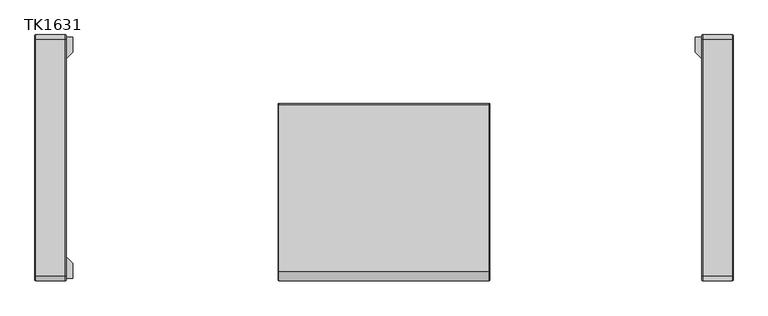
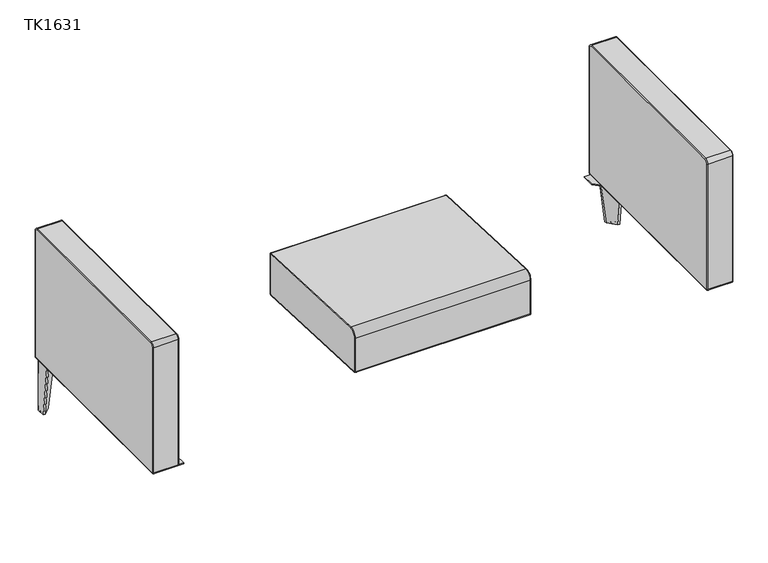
"""IFC4 building model written with IfcOpenShell, lengths in millimetres: furniture geometry, JSI-Teekan-Three_Seat_Lounge : TK1631."""

from ifc_helpers import new_model, si_unit, point, frame, origin, place, context, project, spatial, polyline, circle_curve, ellipse_curve, trimmed, outline, extrude, source, transform, mapped, element, save
from ifc_brep_helpers import plane_surface, cylinder_surface, revolved_surface, spline_surface, advanced_brep


def tk1631_d7be27ab(model_context):
    return source(origin(), model_context, "Body", "SolidModel", [
        extrude(outline(polyline([(-882.65, -342.9), (-984.25, -342.9), (-984.25, -241.3), (-941.3875, -241.3), (-882.65, -300.0375), (-882.65, -342.9)])), frame((0.0, 0.0, 189.4817329), z_axis=(0.0, 0.0, 1.0), x_axis=(1.0, 0.0, 0.0)), (0.0, 0.0, 1.0), 3.175),
        advanced_brep(
        [(974.2513333, 340.133006, 3.1926572), (974.2513333, 340.133006, 4.9994321), (974.2513333, 325.6863843, 4.9994321), (974.2513333, 325.6863843, 3.1926572), (974.2513333, 336.9403488, 0.0), (974.2513333, 328.8790415, 0.0), (974.2513333, 332.9096951, 0.0), (974.2513333, 332.9096951, 4.9994321)],
        [
            (0, 1),
            (1, 2, circle_curve(frame((974.2513333, 332.9096951, 4.9994321), z_axis=(0.0, 0.0, -1.0), x_axis=(0.0, -1.0, 0.0)), 7.2233108)),
            (2, 3),
            (3, 0, circle_curve(frame((974.2513333, 332.9096951, 3.1926572), z_axis=(0.0, 0.0, 1.0), x_axis=(0.0, -1.0, 0.0)), 7.2233108)),
            (2, 1, circle_curve(frame((974.2513333, 332.9096951, 4.9994321), z_axis=(0.0, 0.0, -1.0), x_axis=(0.0, -1.0, 0.0)), 7.2233108)),
            (0, 3, circle_curve(frame((974.2513333, 332.9096951, 3.1926572), z_axis=(0.0, 0.0, 1.0), x_axis=(0.0, -1.0, 0.0)), 7.2233108)),
            (4, 0, circle_curve(frame((974.2513333, 336.9403488, 3.1926572), z_axis=(1.0, 0.0, 0.0), x_axis=(0.0, 1.0, 0.0)), 3.1926572)),
            (3, 5, circle_curve(frame((974.2513333, 328.8790415, 3.1926572), z_axis=(1.0, 0.0, 0.0), x_axis=(0.0, -1.0, 0.0)), 3.1926572)),
            (5, 4, circle_curve(frame((974.2513333, 332.9096951, 0.0), z_axis=(0.0, 0.0, 1.0), x_axis=(0.0, -1.0, 0.0)), 4.0306536)),
            (4, 5, circle_curve(frame((974.2513333, 332.9096951, 0.0), z_axis=(0.0, 0.0, 1.0), x_axis=(0.0, -1.0, 0.0)), 4.0306536)),
            (6, 4),
            (5, 6),
            (1, 7),
            (7, 2),
        ],
        [
            cylinder_surface(frame((974.2513333, 332.9096951, 14.2077797), z_axis=(0.0, 0.0, -1.0), x_axis=(0.0, -1.0, 0.0)), 7.2233108),
            revolved_surface(trimmed(ellipse_curve(frame((974.2513333, 328.8790415, 3.1926572), z_axis=(1.0, 0.0, 0.0), x_axis=(0.0, -1.0, 0.0)), 3.1926572, 3.1926572), [point((974.2513333, 325.6863843, 3.1926572))], [point((974.2513333, 328.8790415, 0.0))], True, "CARTESIAN"), (974.2513333, 332.9096951, 14.2077797), (0.0, 0.0, -1.0)),
            plane_surface(frame((974.2513333, 332.9096951, 0.0), z_axis=(0.0, 0.0, -1.0), x_axis=(0.0, -1.0, 0.0))),
            plane_surface(frame((974.2513333, 332.9096951, 4.9994321), z_axis=(0.0, 0.0, 1.0), x_axis=(0.0, -1.0, 0.0))),
        ],
        [
            (0, [[1, 2, 3, 4]]),
            (0, [[-3, 5, -1, 6]]),
            (1, [[7, -4, 8, 9]]),
            (1, [[-8, -6, -7, 10]]),
            (2, [[11, -9, 12]]),
            (2, [[-12, -10, -11]]),
            (3, [[13, 14, -2]]),
            (3, [[-14, -13, -5]]),
        ],
    ),
        advanced_brep(
        [(930.275, 336.5496631, 189.4817329), (977.9, 288.9246631, 189.4817329), (984.25, 288.9246631, 189.4817329), (984.25, 339.725, 189.4817329), (981.075, 342.9, 189.4817329), (930.275, 342.9, 189.4817329), (952.5, 336.5496631, 4.9994321), (952.5, 342.9, 4.9994321), (981.0469923, 342.9, 4.9994321), (984.25, 339.6969923, 4.9994321), (984.25, 311.1496631, 4.9994321), (977.9, 311.1496631, 4.9994321)],
        [
            (0, 1),
            (1, 2),
            (2, 3),
            (3, 4, circle_curve(frame((981.075, 339.725, 189.4817329), z_axis=(0.0, 0.0, 1.0), x_axis=(-1.0, 0.0, 0.0)), 3.175)),
            (4, 5),
            (5, 0),
            (6, 7),
            (7, 8),
            (8, 9, circle_curve(frame((981.0469923, 339.6969923, 4.9994321), z_axis=(0.0, 0.0, -1.0), x_axis=(-1.0, 0.0, 0.0)), 3.2030077)),
            (9, 10),
            (10, 11),
            (11, 6),
            (6, 0),
            (5, 7),
            (4, 8),
            (3, 9),
            (2, 10),
            (1, 11),
        ],
        [
            plane_surface(frame((964.6708333, 323.3206649, 189.4817329), z_axis=(0.0, 0.0, 1.0), x_axis=(-1.0, 0.0, 0.0))),
            plane_surface(frame((972.0744987, 330.7243303, 4.9994321), z_axis=(0.0, 0.0, -1.0), x_axis=(-1.0, 0.0, 0.0))),
            plane_surface(frame((952.5, 339.7248316, 4.9994321), z_axis=(-0.9928212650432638, 0.0, -0.11960742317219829), x_axis=(0.0, 1.0, 0.0))),
            plane_surface(frame((966.7734961, 342.9, 4.9994321), z_axis=(0.0, 1.0, 0.0), x_axis=(1.0, 0.0, 0.0))),
            spline_surface(1, 2, [[(981.0469923, 342.9, 4.9994321), (984.25, 342.90000000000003, 4.9994321), (984.25, 339.6969923, 4.9994321)], [(981.075, 342.9, 189.4817329), (984.25, 342.90000000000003, 189.4817329), (984.25, 339.725, 189.4817329)]], [2, 2], [3, 3], [0.0, 1.0], [0.0, 1.0], weights=[[1.0, 0.7071067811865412, 1.0], [1.0, 0.7071067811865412, 1.0]]),
            plane_surface(frame((984.25, 325.4233277, 4.9994321), z_axis=(1.0, 0.0, 0.0), x_axis=(0.0, -1.0, 0.0))),
            plane_surface(frame((981.075, 311.1496631, 4.9994321), z_axis=(0.0, -0.992821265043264, -0.11960742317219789), x_axis=(-1.0, 0.0, 0.0))),
            plane_surface(frame((965.2, 323.8496631, 4.9994321), z_axis=(-0.7045550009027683, -0.7045550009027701, -0.08487933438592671), x_axis=(-0.7071067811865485, 0.7071067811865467, 0.0))),
        ],
        [
            (0, [[1, 2, 3, 4, 5, 6]]),
            (1, [[7, 8, 9, 10, 11, 12]]),
            (2, [[13, -6, 14, -7]]),
            (3, [[-14, -5, 15, -8]]),
            (4, [[-15, -4, 16, -9]]),
            (5, [[-16, -3, 17, -10]]),
            (6, [[-17, -2, 18, -11]]),
            (7, [[-18, -1, -13, -12]]),
        ],
    ),
        extrude(outline(polyline([(882.65, 342.9), (984.25, 342.9), (984.25, 241.3), (941.3875, 241.3), (882.65, 300.0375), (882.65, 342.9)])), frame((0.0, 0.0, 189.4817329), z_axis=(0.0, 0.0, 1.0), x_axis=(1.0, 0.0, 0.0)), (0.0, 0.0, 1.0), 3.175),
        advanced_brep(
        [(-974.2513333, 340.133006, 3.1926572), (-974.2513333, 325.6863843, 3.1926572), (-974.2513333, 325.6863843, 4.9994321), (-974.2513333, 340.133006, 4.9994321), (-974.2513333, 336.9403488, 0.0), (-974.2513333, 328.8790415, 0.0), (-974.2513333, 332.9096951, 0.0), (-974.2513333, 332.9096951, 4.9994321)],
        [
            (0, 1, circle_curve(frame((-974.2513333, 332.9096951, 3.1926572), z_axis=(0.0, 0.0, 1.0), x_axis=(0.0, -1.0, 0.0)), 7.2233108)),
            (1, 2),
            (2, 3, circle_curve(frame((-974.2513333, 332.9096951, 4.9994321), z_axis=(0.0, 0.0, -1.0), x_axis=(0.0, -1.0, 0.0)), 7.2233108)),
            (3, 0),
            (1, 0, circle_curve(frame((-974.2513333, 332.9096951, 3.1926572), z_axis=(0.0, 0.0, 1.0), x_axis=(0.0, -1.0, 0.0)), 7.2233108)),
            (3, 2, circle_curve(frame((-974.2513333, 332.9096951, 4.9994321), z_axis=(0.0, 0.0, -1.0), x_axis=(0.0, -1.0, 0.0)), 7.2233108)),
            (4, 5, circle_curve(frame((-974.2513333, 332.9096951, 0.0), z_axis=(0.0, 0.0, 1.0), x_axis=(0.0, -1.0, 0.0)), 4.0306536)),
            (5, 1, circle_curve(frame((-974.2513333, 328.8790415, 3.1926572), z_axis=(-1.0, 0.0, 0.0), x_axis=(0.0, -1.0, 0.0)), 3.1926572)),
            (0, 4, circle_curve(frame((-974.2513333, 336.9403488, 3.1926572), z_axis=(-1.0, 0.0, 0.0), x_axis=(0.0, 1.0, 0.0)), 3.1926572)),
            (5, 4, circle_curve(frame((-974.2513333, 332.9096951, 0.0), z_axis=(0.0, 0.0, 1.0), x_axis=(0.0, -1.0, 0.0)), 4.0306536)),
            (6, 5),
            (4, 6),
            (2, 7),
            (7, 3),
        ],
        [
            cylinder_surface(frame((-974.2513333, 332.9096951, 14.2077797), z_axis=(0.0, 0.0, -1.0), x_axis=(0.0, -1.0, 0.0)), 7.2233108),
            revolved_surface(trimmed(ellipse_curve(frame((-974.2513333, 328.8790415, 3.1926572), z_axis=(1.0, 0.0, 0.0), x_axis=(0.0, -1.0, 0.0)), 3.1926572, 3.1926572), [point((-974.2513333, 325.6863843, 3.1926572))], [point((-974.2513333, 328.8790415, 0.0))], True, "CARTESIAN"), (-974.2513333, 332.9096951, 14.2077797), (0.0, 0.0, -1.0)),
            plane_surface(frame((-974.2513333, 332.9096951, 0.0), z_axis=(0.0, 0.0, -1.0), x_axis=(0.0, -1.0, 0.0))),
            plane_surface(frame((-974.2513333, 332.9096951, 4.9994321), z_axis=(0.0, 0.0, 1.0), x_axis=(0.0, -1.0, 0.0))),
        ],
        [
            (0, [[1, 2, 3, 4]]),
            (0, [[5, -4, 6, -2]]),
            (1, [[7, 8, -1, 9]]),
            (1, [[10, -9, -5, -8]]),
            (2, [[11, -7, 12]]),
            (2, [[-12, -10, -11]]),
            (3, [[-3, 13, 14]]),
            (3, [[-6, -14, -13]]),
        ],
    ),
        advanced_brep(
        [(-930.275, 336.5496631, 189.4817329), (-930.275, 342.9, 189.4817329), (-981.075, 342.9, 189.4817329), (-984.25, 339.725, 189.4817329), (-984.25, 288.9246631, 189.4817329), (-977.9, 288.9246631, 189.4817329), (-952.5, 336.5496631, 4.9994321), (-977.9, 311.1496631, 4.9994321), (-984.25, 311.1496631, 4.9994321), (-984.25, 339.6969923, 4.9994321), (-981.0469923, 342.9, 4.9994321), (-952.5, 342.9, 4.9994321)],
        [
            (0, 1),
            (1, 2),
            (2, 3, circle_curve(frame((-981.075, 339.725, 189.4817329), z_axis=(0.0, 0.0, 1.0), x_axis=(1.0, 0.0, 0.0)), 3.175)),
            (3, 4),
            (4, 5),
            (5, 0),
            (6, 7),
            (7, 8),
            (8, 9),
            (9, 10, circle_curve(frame((-981.0469923, 339.6969923, 4.9994321), z_axis=(0.0, 0.0, -1.0), x_axis=(1.0, 0.0, 0.0)), 3.2030077)),
            (10, 11),
            (11, 6),
            (11, 1),
            (0, 6),
            (10, 2),
            (9, 3),
            (8, 4),
            (7, 5),
        ],
        [
            plane_surface(frame((-964.6708333, 323.3206649, 189.4817329), z_axis=(0.0, 0.0, 1.0), x_axis=(1.0, 0.0, 0.0))),
            plane_surface(frame((-972.0744987, 330.7243303, 4.9994321), z_axis=(0.0, 0.0, -1.0), x_axis=(1.0, 0.0, 0.0))),
            plane_surface(frame((-952.5, 339.7248316, 4.9994321), z_axis=(0.9928212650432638, 0.0, -0.11960742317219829), x_axis=(0.0, 1.0, 0.0))),
            plane_surface(frame((-966.7734961, 342.9, 4.9994321), z_axis=(0.0, 1.0, 0.0), x_axis=(-1.0, 0.0, 0.0))),
            spline_surface(2, 1, [[(-981.0469923, 342.9, 4.9994321), (-981.075, 342.9, 189.4817329)], [(-984.25, 342.90000000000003, 4.9994321), (-984.25, 342.90000000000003, 189.4817329)], [(-984.25, 339.6969923, 4.9994321), (-984.25, 339.725, 189.4817329)]], [3, 3], [2, 2], [0.0, 1.0], [0.0, 1.0], weights=[[1.0, 1.0], [0.7071067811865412, 0.7071067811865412], [1.0, 1.0]]),
            plane_surface(frame((-984.25, 325.4233277, 4.9994321), z_axis=(-1.0, 0.0, 0.0), x_axis=(0.0, -1.0, 0.0))),
            plane_surface(frame((-981.075, 311.1496631, 4.9994321), z_axis=(0.0, -0.992821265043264, -0.11960742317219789), x_axis=(1.0, 0.0, 0.0))),
            plane_surface(frame((-965.2, 323.8496631, 4.9994321), z_axis=(0.7045550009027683, -0.7045550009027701, -0.08487933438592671), x_axis=(0.7071067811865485, 0.7071067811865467, 0.0))),
        ],
        [
            (0, [[1, 2, 3, 4, 5, 6]]),
            (1, [[7, 8, 9, 10, 11, 12]]),
            (2, [[-12, 13, -1, 14]]),
            (3, [[-11, 15, -2, -13]]),
            (4, [[-10, 16, -3, -15]]),
            (5, [[-9, 17, -4, -16]]),
            (6, [[-8, 18, -5, -17]]),
            (7, [[-7, -14, -6, -18]]),
        ],
    ),
        extrude(outline(polyline([(-882.65, 342.9), (-882.65, 300.0375), (-941.3875, 241.3), (-984.25, 241.3), (-984.25, 342.9), (-882.65, 342.9)])), frame((0.0, 0.0, 189.4817329), z_axis=(0.0, 0.0, 1.0), x_axis=(1.0, 0.0, 0.0)), (0.0, 0.0, 1.0), 3.175),
        advanced_brep(
        [(-904.08125, -349.2253956, 649.9721851), (-901.7, -346.8441456, 649.9721851), (-901.7, -336.5253956, 660.2909351), (-904.08125, -336.5253956, 662.6721851), (-988.21875, -336.5253956, 662.6721851), (-988.21875, -349.2253956, 649.9721851), (-990.6, -336.5253956, 660.2909351), (-990.6, -346.8441456, 649.9721851), (-904.08125, -349.2253956, 197.5346851), (-901.7, -346.8441456, 197.5346851), (-988.21875, -349.2253956, 197.5346851), (-990.6, -346.8441456, 197.5346851), (-904.08125, -344.4628956, 192.7721851), (-901.7, -344.4628956, 195.1534351), (-988.21875, -344.4628956, 192.7721851), (-990.6, -344.4628956, 195.1534351), (-904.08125, 344.5121044, 192.7721851), (-901.7, 344.5121044, 195.1534351), (-988.21875, 344.5121044, 192.7721851), (-990.6, 344.5121044, 195.1534351), (-904.08125, 349.2746044, 197.5346851), (-901.7, 346.8933544, 197.5346851), (-988.21875, 349.2746044, 197.5346851), (-990.6, 346.8933544, 197.5346851), (-904.08125, 349.2746044, 649.9721851), (-901.7, 346.8933544, 649.9721851), (-988.21875, 349.2746044, 649.9721851), (-990.6, 346.8933544, 649.9721851), (-904.08125, 336.5746044, 662.6721851), (-901.7, 336.5746044, 660.2909351), (-988.21875, 336.5746044, 662.6721851), (-990.6, 336.5746044, 660.2909351)],
        [
            (0, 1, circle_curve(frame((-904.08125, -346.8441456, 649.9721851), z_axis=(0.0, 0.0, 1.0), x_axis=(-1.0, 0.0, 0.0)), 2.38125)),
            (1, 2, circle_curve(frame((-901.7, -336.5253956, 649.9721851), z_axis=(-1.0, 0.0, 0.0), x_axis=(0.0, 0.0, 1.0)), 10.31875)),
            (2, 3, circle_curve(frame((-904.08125, -336.5253956, 660.2909351), z_axis=(0.0, -1.0, 0.0), x_axis=(-1.0, 0.0, 0.0)), 2.38125)),
            (3, 0, circle_curve(frame((-904.08125, -336.5253956, 649.9721851), z_axis=(1.0, 0.0, 0.0), x_axis=(0.0, 0.0, 1.0)), 12.7)),
            (3, 4),
            (4, 5, circle_curve(frame((-988.21875, -336.5253956, 649.9721851), z_axis=(1.0, 0.0, 0.0), x_axis=(0.0, 0.0, 1.0)), 12.7)),
            (5, 0),
            (4, 6, circle_curve(frame((-988.21875, -336.5253956, 660.2909351), z_axis=(0.0, -1.0, 0.0), x_axis=(-1.0, 0.0, 0.0)), 2.38125)),
            (6, 7, circle_curve(frame((-990.6, -336.5253956, 649.9721851), z_axis=(1.0, 0.0, 0.0), x_axis=(0.0, 0.0, 1.0)), 10.31875)),
            (7, 5, circle_curve(frame((-988.21875, -346.8441456, 649.9721851), z_axis=(0.0, 0.0, 1.0), x_axis=(-1.0, 0.0, 0.0)), 2.38125)),
            (0, 8),
            (8, 9, circle_curve(frame((-904.08125, -346.8441456, 197.5346851), z_axis=(0.0, 0.0, 1.0), x_axis=(-1.0, 0.0, 0.0)), 2.38125)),
            (9, 1),
            (5, 10),
            (10, 8),
            (7, 11),
            (11, 10, circle_curve(frame((-988.21875, -346.8441456, 197.5346851), z_axis=(0.0, 0.0, 1.0), x_axis=(-1.0, 0.0, 0.0)), 2.38125)),
            (8, 12, circle_curve(frame((-904.08125, -344.4628956, 197.5346851), z_axis=(1.0, 0.0, 0.0), x_axis=(0.0, -1.0, 0.0)), 4.7625)),
            (12, 13, circle_curve(frame((-904.08125, -344.4628956, 195.1534351), z_axis=(0.0, -1.0, 0.0), x_axis=(-1.0, 0.0, 0.0)), 2.38125)),
            (13, 9, circle_curve(frame((-901.7, -344.4628956, 197.5346851), z_axis=(-1.0, 0.0, 0.0), x_axis=(0.0, -1.0, 0.0)), 2.38125)),
            (10, 14, circle_curve(frame((-988.21875, -344.4628956, 197.5346851), z_axis=(1.0, 0.0, 0.0), x_axis=(0.0, -1.0, 0.0)), 4.7625)),
            (14, 12),
            (11, 15, circle_curve(frame((-990.6, -344.4628956, 197.5346851), z_axis=(1.0, 0.0, 0.0), x_axis=(0.0, -1.0, 0.0)), 2.38125)),
            (15, 14, circle_curve(frame((-988.21875, -344.4628956, 195.1534351), z_axis=(0.0, -1.0, 0.0), x_axis=(-1.0, 0.0, 0.0)), 2.38125)),
            (12, 16),
            (16, 17, circle_curve(frame((-904.08125, 344.5121044, 195.1534351), z_axis=(0.0, -1.0, 0.0), x_axis=(-1.0, 0.0, 0.0)), 2.38125)),
            (17, 13),
            (14, 18),
            (18, 16),
            (15, 19),
            (19, 18, circle_curve(frame((-988.21875, 344.5121044, 195.1534351), z_axis=(0.0, -1.0, 0.0), x_axis=(-1.0, 0.0, 0.0)), 2.38125)),
            (16, 20, circle_curve(frame((-904.08125, 344.5121044, 197.5346851), z_axis=(1.0, 0.0, 0.0), x_axis=(0.0, 0.0, -1.0)), 4.7625)),
            (20, 21, circle_curve(frame((-904.08125, 346.8933544, 197.5346851), z_axis=(0.0, 0.0, -1.0), x_axis=(-1.0, 0.0, 0.0)), 2.38125)),
            (21, 17, circle_curve(frame((-901.7, 344.5121044, 197.5346851), z_axis=(-1.0, 0.0, 0.0), x_axis=(0.0, 0.0, -1.0)), 2.38125)),
            (18, 22, circle_curve(frame((-988.21875, 344.5121044, 197.5346851), z_axis=(1.0, 0.0, 0.0), x_axis=(0.0, 0.0, -1.0)), 4.7625)),
            (22, 20),
            (19, 23, circle_curve(frame((-990.6, 344.5121044, 197.5346851), z_axis=(1.0, 0.0, 0.0), x_axis=(0.0, 0.0, -1.0)), 2.38125)),
            (23, 22, circle_curve(frame((-988.21875, 346.8933544, 197.5346851), z_axis=(0.0, 0.0, -1.0), x_axis=(-1.0, 0.0, 0.0)), 2.38125)),
            (20, 24),
            (24, 25, circle_curve(frame((-904.08125, 346.8933544, 649.9721851), z_axis=(0.0, 0.0, -1.0), x_axis=(-1.0, 0.0, 0.0)), 2.38125)),
            (25, 21),
            (22, 26),
            (26, 24),
            (23, 27),
            (27, 26, circle_curve(frame((-988.21875, 346.8933544, 649.9721851), z_axis=(0.0, 0.0, -1.0), x_axis=(-1.0, 0.0, 0.0)), 2.38125)),
            (24, 28, circle_curve(frame((-904.08125, 336.5746044, 649.9721851), z_axis=(1.0, 0.0, 0.0), x_axis=(0.0, 1.0, 0.0)), 12.7)),
            (28, 29, circle_curve(frame((-904.08125, 336.5746044, 660.2909351), z_axis=(0.0, 1.0, 0.0), x_axis=(-1.0, 0.0, 0.0)), 2.38125)),
            (29, 25, circle_curve(frame((-901.7, 336.5746044, 649.9721851), z_axis=(-1.0, 0.0, 0.0), x_axis=(0.0, 1.0, 0.0)), 10.31875)),
            (26, 30, circle_curve(frame((-988.21875, 336.5746044, 649.9721851), z_axis=(1.0, 0.0, 0.0), x_axis=(0.0, 1.0, 0.0)), 12.7)),
            (30, 28),
            (27, 31, circle_curve(frame((-990.6, 336.5746044, 649.9721851), z_axis=(1.0, 0.0, 0.0), x_axis=(0.0, 1.0, 0.0)), 10.31875)),
            (31, 30, circle_curve(frame((-988.21875, 336.5746044, 660.2909351), z_axis=(0.0, 1.0, 0.0), x_axis=(-1.0, 0.0, 0.0)), 2.38125)),
            (29, 2),
            (28, 3),
            (30, 4),
            (31, 6),
        ],
        [
            revolved_surface(trimmed(ellipse_curve(frame((-904.08125, -336.5253956, 660.2909351), z_axis=(0.0, -1.0, 0.0), x_axis=(-1.0, 0.0, 0.0)), 2.38125, 2.38125), [point((-901.7, -336.5253956, 660.2909351))], [point((-904.08125, -336.5253956, 662.6721851))], True, "CARTESIAN"), (-990.6, -336.5253956, 649.9721851), (-1.0, 0.0, 0.0)),
            cylinder_surface(frame((-990.6, -336.5253956, 649.9721851), z_axis=(-1.0, 0.0, 0.0), x_axis=(0.0, 0.0, 1.0)), 12.7),
            revolved_surface(trimmed(ellipse_curve(frame((-988.21875, -336.5253956, 660.2909351), z_axis=(0.0, -1.0, 0.0), x_axis=(-1.0, 0.0, 0.0)), 2.38125, 2.38125), [point((-988.21875, -336.5253956, 662.6721851))], [point((-990.6, -336.5253956, 660.2909351))], True, "CARTESIAN"), (-990.6, -336.5253956, 649.9721851), (-1.0, 0.0, 0.0)),
            cylinder_surface(frame((-904.08125, -346.8441456, 649.9721851), z_axis=(0.0, 0.0, 1.0), x_axis=(-1.0, 0.0, 0.0)), 2.38125),
            plane_surface(frame((-904.08125, -349.2253956, 649.9721851), z_axis=(0.0, -1.0, 0.0), x_axis=(0.0, 0.0, -1.0))),
            cylinder_surface(frame((-988.21875, -346.8441456, 649.9721851), z_axis=(0.0, 0.0, 1.0), x_axis=(-1.0, 0.0, 0.0)), 2.38125),
            revolved_surface(trimmed(ellipse_curve(frame((-904.08125, -346.8441456, 197.5346851), z_axis=(0.0, 0.0, -1.0), x_axis=(-1.0, 0.0, 0.0)), 2.38125, 2.38125), [point((-901.7, -346.8441456, 197.5346851))], [point((-904.08125, -349.2253956, 197.5346851))], True, "CARTESIAN"), (-990.6, -344.4628956, 197.5346851), (-1.0, 0.0, 0.0)),
            cylinder_surface(frame((-990.6, -344.4628956, 197.5346851), z_axis=(-1.0, 0.0, 0.0), x_axis=(0.0, -1.0, 0.0)), 4.7625),
            revolved_surface(trimmed(ellipse_curve(frame((-988.21875, -346.8441456, 197.5346851), z_axis=(0.0, 0.0, -1.0), x_axis=(-1.0, 0.0, 0.0)), 2.38125, 2.38125), [point((-988.21875, -349.2253956, 197.5346851))], [point((-990.6, -346.8441456, 197.5346851))], True, "CARTESIAN"), (-990.6, -344.4628956, 197.5346851), (-1.0, 0.0, 0.0)),
            cylinder_surface(frame((-904.08125, -344.4628956, 195.1534351), z_axis=(0.0, -1.0, 0.0), x_axis=(-1.0, 0.0, 0.0)), 2.38125),
            plane_surface(frame((-904.08125, -344.4628956, 192.7721851), z_axis=(0.0, 0.0, -1.0), x_axis=(0.0, 1.0, 0.0))),
            cylinder_surface(frame((-988.21875, -344.4628956, 195.1534351), z_axis=(0.0, -1.0, 0.0), x_axis=(-1.0, 0.0, 0.0)), 2.38125),
            revolved_surface(trimmed(ellipse_curve(frame((-904.08125, 344.5121044, 195.1534351), z_axis=(0.0, 1.0, 0.0), x_axis=(-1.0, 0.0, 0.0)), 2.38125, 2.38125), [point((-901.7, 344.5121044, 195.1534351))], [point((-904.08125, 344.5121044, 192.7721851))], True, "CARTESIAN"), (-990.6, 344.5121044, 197.5346851), (-1.0, 0.0, 0.0)),
            cylinder_surface(frame((-990.6, 344.5121044, 197.5346851), z_axis=(-1.0, 0.0, 0.0), x_axis=(0.0, 0.0, -1.0)), 4.7625),
            revolved_surface(trimmed(ellipse_curve(frame((-988.21875, 344.5121044, 195.1534351), z_axis=(0.0, 1.0, 0.0), x_axis=(-1.0, 0.0, 0.0)), 2.38125, 2.38125), [point((-988.21875, 344.5121044, 192.7721851))], [point((-990.6, 344.5121044, 195.1534351))], True, "CARTESIAN"), (-990.6, 344.5121044, 197.5346851), (-1.0, 0.0, 0.0)),
            cylinder_surface(frame((-904.08125, 346.8933544, 197.5346851), z_axis=(0.0, 0.0, -1.0), x_axis=(-1.0, 0.0, 0.0)), 2.38125),
            plane_surface(frame((-904.08125, 349.2746044, 197.5346851), z_axis=(0.0, 1.0, 0.0), x_axis=(0.0, 0.0, 1.0))),
            cylinder_surface(frame((-988.21875, 346.8933544, 197.5346851), z_axis=(0.0, 0.0, -1.0), x_axis=(-1.0, 0.0, 0.0)), 2.38125),
            revolved_surface(trimmed(ellipse_curve(frame((-904.08125, 346.8933544, 649.9721851), z_axis=(0.0, 0.0, 1.0), x_axis=(-1.0, 0.0, 0.0)), 2.38125, 2.38125), [point((-901.7, 346.8933544, 649.9721851))], [point((-904.08125, 349.2746044, 649.9721851))], True, "CARTESIAN"), (-990.6, 336.5746044, 649.9721851), (-1.0, 0.0, 0.0)),
            cylinder_surface(frame((-990.6, 336.5746044, 649.9721851), z_axis=(-1.0, 0.0, 0.0), x_axis=(0.0, 1.0, 0.0)), 12.7),
            revolved_surface(trimmed(ellipse_curve(frame((-988.21875, 346.8933544, 649.9721851), z_axis=(0.0, 0.0, 1.0), x_axis=(-1.0, 0.0, 0.0)), 2.38125, 2.38125), [point((-988.21875, 349.2746044, 649.9721851))], [point((-990.6, 346.8933544, 649.9721851))], True, "CARTESIAN"), (-990.6, 336.5746044, 649.9721851), (-1.0, 0.0, 0.0)),
            plane_surface(frame((-901.7, 336.5746044, 658.7034351), z_axis=(1.0, 0.0, 0.0), x_axis=(0.0, -1.0, 0.0))),
            cylinder_surface(frame((-904.08125, 336.5746044, 660.2909351), z_axis=(0.0, 1.0, 0.0), x_axis=(-1.0, 0.0, 0.0)), 2.38125),
            plane_surface(frame((-904.08125, 336.5746044, 662.6721851), z_axis=(0.0, 0.0, 1.0), x_axis=(0.0, -1.0, 0.0))),
            cylinder_surface(frame((-988.21875, 336.5746044, 660.2909351), z_axis=(0.0, 1.0, 0.0), x_axis=(-1.0, 0.0, 0.0)), 2.38125),
            plane_surface(frame((-990.6, 336.5746044, 660.2909351), z_axis=(-1.0, 0.0, 0.0), x_axis=(0.0, -1.0, 0.0))),
        ],
        [
            (0, [[1, 2, 3, 4]]),
            (1, [[5, 6, 7, -4]]),
            (2, [[8, 9, 10, -6]]),
            (3, [[11, 12, 13, -1]]),
            (4, [[14, 15, -11, -7]]),
            (5, [[16, 17, -14, -10]]),
            (6, [[18, 19, 20, -12]]),
            (7, [[21, 22, -18, -15]]),
            (8, [[23, 24, -21, -17]]),
            (9, [[25, 26, 27, -19]]),
            (10, [[28, 29, -25, -22]]),
            (11, [[30, 31, -28, -24]]),
            (12, [[32, 33, 34, -26]]),
            (13, [[35, 36, -32, -29]]),
            (14, [[37, 38, -35, -31]]),
            (15, [[39, 40, 41, -33]]),
            (16, [[42, 43, -39, -36]]),
            (17, [[44, 45, -42, -38]]),
            (18, [[46, 47, 48, -40]]),
            (19, [[49, 50, -46, -43]]),
            (20, [[51, 52, -49, -45]]),
            (21, [[-13, -20, -27, -34, -41, -48, 53, -2]]),
            (22, [[-53, -47, 54, -3]]),
            (23, [[-54, -50, 55, -5]]),
            (24, [[-55, -52, 56, -8]]),
            (25, [[-56, -51, -44, -37, -30, -23, -16, -9]]),
        ],
    ),
        advanced_brep(
        [(904.08125, -349.2253956, 649.9721851), (904.08125, -336.5253956, 662.6721851), (901.7, -336.5253956, 660.2909351), (901.7, -346.8441456, 649.9721851), (988.21875, -349.2253956, 649.9721851), (988.21875, -336.5253956, 662.6721851), (990.6, -346.8441456, 649.9721851), (990.6, -336.5253956, 660.2909351), (901.7, -346.8441456, 197.5346851), (904.08125, -349.2253956, 197.5346851), (988.21875, -349.2253956, 197.5346851), (990.6, -346.8441456, 197.5346851), (901.7, -344.4628956, 195.1534351), (904.08125, -344.4628956, 192.7721851), (988.21875, -344.4628956, 192.7721851), (990.6, -344.4628956, 195.1534351), (901.7, 344.5121044, 195.1534351), (904.08125, 344.5121044, 192.7721851), (988.21875, 344.5121044, 192.7721851), (990.6, 344.5121044, 195.1534351), (901.7, 346.8933544, 197.5346851), (904.08125, 349.2746044, 197.5346851), (988.21875, 349.2746044, 197.5346851), (990.6, 346.8933544, 197.5346851), (901.7, 346.8933544, 649.9721851), (904.08125, 349.2746044, 649.9721851), (988.21875, 349.2746044, 649.9721851), (990.6, 346.8933544, 649.9721851), (901.7, 336.5746044, 660.2909351), (904.08125, 336.5746044, 662.6721851), (988.21875, 336.5746044, 662.6721851), (990.6, 336.5746044, 660.2909351)],
        [
            (0, 1, circle_curve(frame((904.08125, -336.5253956, 649.9721851), z_axis=(-1.0, 0.0, 0.0), x_axis=(0.0, 0.0, 1.0)), 12.7)),
            (1, 2, circle_curve(frame((904.08125, -336.5253956, 660.2909351), z_axis=(0.0, -1.0, 0.0), x_axis=(1.0, 0.0, 0.0)), 2.38125)),
            (2, 3, circle_curve(frame((901.7, -336.5253956, 649.9721851), z_axis=(1.0, 0.0, 0.0), x_axis=(0.0, 0.0, 1.0)), 10.31875)),
            (3, 0, circle_curve(frame((904.08125, -346.8441456, 649.9721851), z_axis=(0.0, 0.0, 1.0), x_axis=(1.0, 0.0, 0.0)), 2.38125)),
            (0, 4),
            (4, 5, circle_curve(frame((988.21875, -336.5253956, 649.9721851), z_axis=(-1.0, 0.0, 0.0), x_axis=(0.0, 0.0, 1.0)), 12.7)),
            (5, 1),
            (4, 6, circle_curve(frame((988.21875, -346.8441456, 649.9721851), z_axis=(0.0, 0.0, 1.0), x_axis=(1.0, 0.0, 0.0)), 2.38125)),
            (6, 7, circle_curve(frame((990.6, -336.5253956, 649.9721851), z_axis=(-1.0, 0.0, 0.0), x_axis=(0.0, 0.0, 1.0)), 10.31875)),
            (7, 5, circle_curve(frame((988.21875, -336.5253956, 660.2909351), z_axis=(0.0, -1.0, 0.0), x_axis=(1.0, 0.0, 0.0)), 2.38125)),
            (3, 8),
            (8, 9, circle_curve(frame((904.08125, -346.8441456, 197.5346851), z_axis=(0.0, 0.0, 1.0), x_axis=(1.0, 0.0, 0.0)), 2.38125)),
            (9, 0),
            (9, 10),
            (10, 4),
            (10, 11, circle_curve(frame((988.21875, -346.8441456, 197.5346851), z_axis=(0.0, 0.0, 1.0), x_axis=(1.0, 0.0, 0.0)), 2.38125)),
            (11, 6),
            (8, 12, circle_curve(frame((901.7, -344.4628956, 197.5346851), z_axis=(1.0, 0.0, 0.0), x_axis=(0.0, -1.0, 0.0)), 2.38125)),
            (12, 13, circle_curve(frame((904.08125, -344.4628956, 195.1534351), z_axis=(0.0, -1.0, 0.0), x_axis=(1.0, 0.0, 0.0)), 2.38125)),
            (13, 9, circle_curve(frame((904.08125, -344.4628956, 197.5346851), z_axis=(-1.0, 0.0, 0.0), x_axis=(0.0, -1.0, 0.0)), 4.7625)),
            (13, 14),
            (14, 10, circle_curve(frame((988.21875, -344.4628956, 197.5346851), z_axis=(-1.0, 0.0, 0.0), x_axis=(0.0, -1.0, 0.0)), 4.7625)),
            (14, 15, circle_curve(frame((988.21875, -344.4628956, 195.1534351), z_axis=(0.0, -1.0, 0.0), x_axis=(1.0, 0.0, 0.0)), 2.38125)),
            (15, 11, circle_curve(frame((990.6, -344.4628956, 197.5346851), z_axis=(-1.0, 0.0, 0.0), x_axis=(0.0, -1.0, 0.0)), 2.38125)),
            (12, 16),
            (16, 17, circle_curve(frame((904.08125, 344.5121044, 195.1534351), z_axis=(0.0, -1.0, 0.0), x_axis=(1.0, 0.0, 0.0)), 2.38125)),
            (17, 13),
            (17, 18),
            (18, 14),
            (18, 19, circle_curve(frame((988.21875, 344.5121044, 195.1534351), z_axis=(0.0, -1.0, 0.0), x_axis=(1.0, 0.0, 0.0)), 2.38125)),
            (19, 15),
            (16, 20, circle_curve(frame((901.7, 344.5121044, 197.5346851), z_axis=(1.0, 0.0, 0.0), x_axis=(0.0, 0.0, -1.0)), 2.38125)),
            (20, 21, circle_curve(frame((904.08125, 346.8933544, 197.5346851), z_axis=(0.0, 0.0, -1.0), x_axis=(1.0, 0.0, 0.0)), 2.38125)),
            (21, 17, circle_curve(frame((904.08125, 344.5121044, 197.5346851), z_axis=(-1.0, 0.0, 0.0), x_axis=(0.0, 0.0, -1.0)), 4.7625)),
            (21, 22),
            (22, 18, circle_curve(frame((988.21875, 344.5121044, 197.5346851), z_axis=(-1.0, 0.0, 0.0), x_axis=(0.0, 0.0, -1.0)), 4.7625)),
            (22, 23, circle_curve(frame((988.21875, 346.8933544, 197.5346851), z_axis=(0.0, 0.0, -1.0), x_axis=(1.0, 0.0, 0.0)), 2.38125)),
            (23, 19, circle_curve(frame((990.6, 344.5121044, 197.5346851), z_axis=(-1.0, 0.0, 0.0), x_axis=(0.0, 0.0, -1.0)), 2.38125)),
            (20, 24),
            (24, 25, circle_curve(frame((904.08125, 346.8933544, 649.9721851), z_axis=(0.0, 0.0, -1.0), x_axis=(1.0, 0.0, 0.0)), 2.38125)),
            (25, 21),
            (25, 26),
            (26, 22),
            (26, 27, circle_curve(frame((988.21875, 346.8933544, 649.9721851), z_axis=(0.0, 0.0, -1.0), x_axis=(1.0, 0.0, 0.0)), 2.38125)),
            (27, 23),
            (24, 28, circle_curve(frame((901.7, 336.5746044, 649.9721851), z_axis=(1.0, 0.0, 0.0), x_axis=(0.0, 1.0, 0.0)), 10.31875)),
            (28, 29, circle_curve(frame((904.08125, 336.5746044, 660.2909351), z_axis=(0.0, 1.0, 0.0), x_axis=(1.0, 0.0, 0.0)), 2.38125)),
            (29, 25, circle_curve(frame((904.08125, 336.5746044, 649.9721851), z_axis=(-1.0, 0.0, 0.0), x_axis=(0.0, 1.0, 0.0)), 12.7)),
            (29, 30),
            (30, 26, circle_curve(frame((988.21875, 336.5746044, 649.9721851), z_axis=(-1.0, 0.0, 0.0), x_axis=(0.0, 1.0, 0.0)), 12.7)),
            (30, 31, circle_curve(frame((988.21875, 336.5746044, 660.2909351), z_axis=(0.0, 1.0, 0.0), x_axis=(1.0, 0.0, 0.0)), 2.38125)),
            (31, 27, circle_curve(frame((990.6, 336.5746044, 649.9721851), z_axis=(-1.0, 0.0, 0.0), x_axis=(0.0, 1.0, 0.0)), 10.31875)),
            (2, 28),
            (1, 29),
            (5, 30),
            (7, 31),
        ],
        [
            revolved_surface(trimmed(ellipse_curve(frame((904.08125, -336.5253956, 660.2909351), z_axis=(0.0, 1.0, 0.0), x_axis=(1.0, 0.0, 0.0)), 2.38125, 2.38125), [point((901.7, -336.5253956, 660.2909351))], [point((904.08125, -336.5253956, 662.6721851))], True, "CARTESIAN"), (990.6, -336.5253956, 649.9721851), (1.0, 0.0, 0.0)),
            cylinder_surface(frame((990.6, -336.5253956, 649.9721851), z_axis=(1.0, 0.0, 0.0), x_axis=(0.0, 0.0, 1.0)), 12.7),
            revolved_surface(trimmed(ellipse_curve(frame((988.21875, -336.5253956, 660.2909351), z_axis=(0.0, 1.0, 0.0), x_axis=(1.0, 0.0, 0.0)), 2.38125, 2.38125), [point((988.21875, -336.5253956, 662.6721851))], [point((990.6, -336.5253956, 660.2909351))], True, "CARTESIAN"), (990.6, -336.5253956, 649.9721851), (1.0, 0.0, 0.0)),
            cylinder_surface(frame((904.08125, -346.8441456, 649.9721851), z_axis=(0.0, 0.0, 1.0), x_axis=(1.0, 0.0, 0.0)), 2.38125),
            plane_surface(frame((904.08125, -349.2253956, 649.9721851), z_axis=(0.0, -1.0, 0.0), x_axis=(0.0, 0.0, -1.0))),
            cylinder_surface(frame((988.21875, -346.8441456, 649.9721851), z_axis=(0.0, 0.0, 1.0), x_axis=(1.0, 0.0, 0.0)), 2.38125),
            revolved_surface(trimmed(ellipse_curve(frame((904.08125, -346.8441456, 197.5346851), z_axis=(0.0, 0.0, 1.0), x_axis=(1.0, 0.0, 0.0)), 2.38125, 2.38125), [point((901.7, -346.8441456, 197.5346851))], [point((904.08125, -349.2253956, 197.5346851))], True, "CARTESIAN"), (990.6, -344.4628956, 197.5346851), (1.0, 0.0, 0.0)),
            cylinder_surface(frame((990.6, -344.4628956, 197.5346851), z_axis=(1.0, 0.0, 0.0), x_axis=(0.0, -1.0, 0.0)), 4.7625),
            revolved_surface(trimmed(ellipse_curve(frame((988.21875, -346.8441456, 197.5346851), z_axis=(0.0, 0.0, 1.0), x_axis=(1.0, 0.0, 0.0)), 2.38125, 2.38125), [point((988.21875, -349.2253956, 197.5346851))], [point((990.6, -346.8441456, 197.5346851))], True, "CARTESIAN"), (990.6, -344.4628956, 197.5346851), (1.0, 0.0, 0.0)),
            cylinder_surface(frame((904.08125, -344.4628956, 195.1534351), z_axis=(0.0, -1.0, 0.0), x_axis=(1.0, 0.0, 0.0)), 2.38125),
            plane_surface(frame((904.08125, -344.4628956, 192.7721851), z_axis=(0.0, 0.0, -1.0), x_axis=(0.0, 1.0, 0.0))),
            cylinder_surface(frame((988.21875, -344.4628956, 195.1534351), z_axis=(0.0, -1.0, 0.0), x_axis=(1.0, 0.0, 0.0)), 2.38125),
            revolved_surface(trimmed(ellipse_curve(frame((904.08125, 344.5121044, 195.1534351), z_axis=(0.0, -1.0, 0.0), x_axis=(1.0, 0.0, 0.0)), 2.38125, 2.38125), [point((901.7, 344.5121044, 195.1534351))], [point((904.08125, 344.5121044, 192.7721851))], True, "CARTESIAN"), (990.6, 344.5121044, 197.5346851), (1.0, 0.0, 0.0)),
            cylinder_surface(frame((990.6, 344.5121044, 197.5346851), z_axis=(1.0, 0.0, 0.0), x_axis=(0.0, 0.0, -1.0)), 4.7625),
            revolved_surface(trimmed(ellipse_curve(frame((988.21875, 344.5121044, 195.1534351), z_axis=(0.0, -1.0, 0.0), x_axis=(1.0, 0.0, 0.0)), 2.38125, 2.38125), [point((988.21875, 344.5121044, 192.7721851))], [point((990.6, 344.5121044, 195.1534351))], True, "CARTESIAN"), (990.6, 344.5121044, 197.5346851), (1.0, 0.0, 0.0)),
            cylinder_surface(frame((904.08125, 346.8933544, 197.5346851), z_axis=(0.0, 0.0, -1.0), x_axis=(1.0, 0.0, 0.0)), 2.38125),
            plane_surface(frame((904.08125, 349.2746044, 197.5346851), z_axis=(0.0, 1.0, 0.0), x_axis=(0.0, 0.0, 1.0))),
            cylinder_surface(frame((988.21875, 346.8933544, 197.5346851), z_axis=(0.0, 0.0, -1.0), x_axis=(1.0, 0.0, 0.0)), 2.38125),
            revolved_surface(trimmed(ellipse_curve(frame((904.08125, 346.8933544, 649.9721851), z_axis=(0.0, 0.0, -1.0), x_axis=(1.0, 0.0, 0.0)), 2.38125, 2.38125), [point((901.7, 346.8933544, 649.9721851))], [point((904.08125, 349.2746044, 649.9721851))], True, "CARTESIAN"), (990.6, 336.5746044, 649.9721851), (1.0, 0.0, 0.0)),
            cylinder_surface(frame((990.6, 336.5746044, 649.9721851), z_axis=(1.0, 0.0, 0.0), x_axis=(0.0, 1.0, 0.0)), 12.7),
            revolved_surface(trimmed(ellipse_curve(frame((988.21875, 346.8933544, 649.9721851), z_axis=(0.0, 0.0, -1.0), x_axis=(1.0, 0.0, 0.0)), 2.38125, 2.38125), [point((988.21875, 349.2746044, 649.9721851))], [point((990.6, 346.8933544, 649.9721851))], True, "CARTESIAN"), (990.6, 336.5746044, 649.9721851), (1.0, 0.0, 0.0)),
            plane_surface(frame((901.7, 336.5746044, 658.7034351), z_axis=(-1.0, 0.0, 0.0), x_axis=(0.0, -1.0, 0.0))),
            cylinder_surface(frame((904.08125, 336.5746044, 660.2909351), z_axis=(0.0, 1.0, 0.0), x_axis=(1.0, 0.0, 0.0)), 2.38125),
            plane_surface(frame((904.08125, 336.5746044, 662.6721851), z_axis=(0.0, 0.0, 1.0), x_axis=(0.0, -1.0, 0.0))),
            cylinder_surface(frame((988.21875, 336.5746044, 660.2909351), z_axis=(0.0, 1.0, 0.0), x_axis=(1.0, 0.0, 0.0)), 2.38125),
            plane_surface(frame((990.6, 336.5746044, 660.2909351), z_axis=(1.0, 0.0, 0.0), x_axis=(0.0, -1.0, 0.0))),
        ],
        [
            (0, [[1, 2, 3, 4]]),
            (1, [[-1, 5, 6, 7]]),
            (2, [[-6, 8, 9, 10]]),
            (3, [[-4, 11, 12, 13]]),
            (4, [[-5, -13, 14, 15]]),
            (5, [[-8, -15, 16, 17]]),
            (6, [[-12, 18, 19, 20]]),
            (7, [[-14, -20, 21, 22]]),
            (8, [[-16, -22, 23, 24]]),
            (9, [[-19, 25, 26, 27]]),
            (10, [[-21, -27, 28, 29]]),
            (11, [[-23, -29, 30, 31]]),
            (12, [[-26, 32, 33, 34]]),
            (13, [[-28, -34, 35, 36]]),
            (14, [[-30, -36, 37, 38]]),
            (15, [[-33, 39, 40, 41]]),
            (16, [[-35, -41, 42, 43]]),
            (17, [[-37, -43, 44, 45]]),
            (18, [[-40, 46, 47, 48]]),
            (19, [[-42, -48, 49, 50]]),
            (20, [[-44, -50, 51, 52]]),
            (21, [[-3, 53, -46, -39, -32, -25, -18, -11]]),
            (22, [[-2, 54, -47, -53]]),
            (23, [[-7, 55, -49, -54]]),
            (24, [[-10, 56, -51, -55]]),
            (25, [[-9, -17, -24, -31, -38, -45, -52, -56]]),
        ],
    ),
        advanced_brep(
        [(298.2515625, 148.7693192, 295.6513391), (298.2515625, 153.733973, 300.4095468), (300.6328125, 151.352723, 300.4095468), (300.6328125, 148.8703961, 298.0304429), (-298.2515625, 148.7693192, 295.6513391), (-298.2515625, 153.733973, 300.4095468), (-300.6328125, 148.8703961, 298.0304429), (-300.6328125, 151.352723, 300.4095468), (300.6328125, -344.5512855, 318.9936072), (298.2515625, -344.6523625, 316.6145034), (-298.2515625, -344.6523625, 316.6145034), (-300.6328125, -344.5512855, 318.9936072), (298.2515625, -322.7527962, 467.50355), (300.6328125, -322.8538731, 465.1244462), (300.6328125, 149.0725499, 445.0745142), (298.2515625, 149.1736269, 447.4536181), (-298.2515625, 149.1736269, 447.4536181), (-298.2515625, -322.7527962, 467.50355), (-300.6328125, 149.0725499, 445.0745142), (-300.6328125, -322.8538731, 465.1244462), (300.6328125, 151.352723, 442.6954104), (298.2515625, 153.733973, 442.6954104), (-298.2515625, 153.733973, 442.6954104), (-300.6328125, 151.352723, 442.6954104), (300.6328125, -346.8497, 321.3917439), (298.2515625, -349.23095, 321.3917439), (-298.2515625, -349.23095, 321.3917439), (-300.6328125, -346.8497, 321.3917439), (300.6328125, -346.8497, 442.1264425), (298.2515625, -349.23095, 442.1264425), (-298.2515625, -349.23095, 442.1264425), (-300.6328125, -346.8497, 442.1264425)],
        [
            (0, 1, circle_curve(frame((298.2515625, 148.971473, 300.4095468), z_axis=(1.0, 0.0, 0.0), x_axis=(0.0, 1.0, 0.0)), 4.7625)),
            (1, 2, circle_curve(frame((298.2515625, 151.352723, 300.4095468), z_axis=(0.0, 0.0, -1.0), x_axis=(1.0, 0.0, 0.0)), 2.38125)),
            (2, 3, circle_curve(frame((300.6328125, 148.971473, 300.4095468), z_axis=(-1.0, 0.0, 0.0), x_axis=(0.0, 1.0, 0.0)), 2.38125)),
            (3, 0, circle_curve(frame((298.2515625, 148.8703961, 298.0304429), z_axis=(0.0, 0.9990987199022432, -0.04244700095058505), x_axis=(1.0, 0.0, 0.0)), 2.38125)),
            (0, 4),
            (4, 5, circle_curve(frame((-298.2515625, 148.971473, 300.4095468), z_axis=(1.0, 0.0, 0.0), x_axis=(0.0, 1.0, 0.0)), 4.7625)),
            (5, 1),
            (4, 6, circle_curve(frame((-298.2515625, 148.8703961, 298.0304429), z_axis=(0.0, 0.9990987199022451, -0.0424470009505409), x_axis=(1.0, 0.0, 0.0)), 2.38125)),
            (6, 7, circle_curve(frame((-300.6328125, 148.971473, 300.4095468), z_axis=(1.0, 0.0, 0.0), x_axis=(0.0, 1.0, 0.0)), 2.38125)),
            (7, 5, circle_curve(frame((-298.2515625, 151.352723, 300.4095468), z_axis=(0.0, 0.0, -1.0), x_axis=(1.0, 0.0, 0.0)), 2.38125)),
            (3, 8),
            (8, 9, circle_curve(frame((298.2515625, -344.5512855, 318.9936072), z_axis=(0.0, 0.9990987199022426, -0.04244700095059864), x_axis=(1.0, 0.0, 0.0)), 2.38125)),
            (9, 0),
            (9, 10),
            (10, 4),
            (10, 11, circle_curve(frame((-298.2515625, -344.5512855, 318.9936072), z_axis=(0.0, 0.9990987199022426, -0.04244700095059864), x_axis=(1.0, 0.0, 0.0)), 2.38125)),
            (11, 6),
            (12, 13, circle_curve(frame((298.2515625, -322.8538731, 465.1244462), z_axis=(0.0, 0.9990987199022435, -0.0424470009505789), x_axis=(1.0, 0.0, 0.0)), 2.38125)),
            (13, 14),
            (14, 15, circle_curve(frame((298.2515625, 149.0725499, 445.0745142), z_axis=(0.0, -0.9990987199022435, 0.0424470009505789), x_axis=(1.0, 0.0, 0.0)), 2.38125)),
            (15, 12),
            (15, 16),
            (16, 17),
            (17, 12),
            (16, 18, circle_curve(frame((-298.2515625, 149.0725499, 445.0745142), z_axis=(0.0, -0.9990987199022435, 0.0424470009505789), x_axis=(1.0, 0.0, 0.0)), 2.38125)),
            (18, 19),
            (19, 17, circle_curve(frame((-298.2515625, -322.8538731, 465.1244462), z_axis=(0.0, 0.9990987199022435, -0.0424470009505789), x_axis=(1.0, 0.0, 0.0)), 2.38125)),
            (14, 20, circle_curve(frame((300.6328125, 148.971473, 442.6954104), z_axis=(-1.0, 0.0, 0.0), x_axis=(0.0, 0.04244700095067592, 0.9990987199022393)), 2.38125)),
            (20, 21, circle_curve(frame((298.2515625, 151.352723, 442.6954104), z_axis=(0.0, 0.0, 0.9999999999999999), x_axis=(1.0, 0.0, 0.0)), 2.38125)),
            (21, 15, circle_curve(frame((298.2515625, 148.971473, 442.6954104), z_axis=(1.0, 0.0, 0.0), x_axis=(0.0, 0.04244700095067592, 0.9990987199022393)), 4.7625)),
            (21, 22),
            (22, 16, circle_curve(frame((-298.2515625, 148.971473, 442.6954104), z_axis=(1.0, 0.0, 0.0), x_axis=(0.0, 0.04244700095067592, 0.9990987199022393)), 4.7625)),
            (22, 23, circle_curve(frame((-298.2515625, 151.352723, 442.6954104), z_axis=(0.0, 0.0, 1.0), x_axis=(1.0, 0.0, 0.0)), 2.38125)),
            (23, 18, circle_curve(frame((-300.6328125, 148.971473, 442.6954104), z_axis=(1.0, 0.0, 0.0), x_axis=(0.0, 0.04244700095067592, 0.9990987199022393)), 2.38125)),
            (1, 21),
            (20, 2),
            (5, 22),
            (7, 23),
            (8, 24, circle_curve(frame((300.6328125, -344.4494, 321.3917439), z_axis=(-1.0, 0.0, 0.0), x_axis=(0.0, -0.04244700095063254, -0.9990987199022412)), 2.4003)),
            (24, 25, circle_curve(frame((298.2515625, -346.8497, 321.3917439), z_axis=(0.0, 0.0, -1.0), x_axis=(1.0, 0.0, 0.0)), 2.38125)),
            (25, 9, circle_curve(frame((298.2515625, -344.4494, 321.3917439), z_axis=(1.0, 0.0, 0.0), x_axis=(0.0, -0.04244700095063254, -0.9990987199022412)), 4.78155)),
            (25, 26),
            (26, 10, circle_curve(frame((-298.2515625, -344.4494, 321.3917439), z_axis=(1.0, 0.0, 0.0), x_axis=(0.0, -0.04244700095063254, -0.9990987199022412)), 4.78155)),
            (26, 27, circle_curve(frame((-298.2515625, -346.8497, 321.3917439), z_axis=(0.0, 0.0, -1.0), x_axis=(1.0, 0.0, 0.0)), 2.38125)),
            (27, 11, circle_curve(frame((-300.6328125, -344.4494, 321.3917439), z_axis=(1.0, 0.0, 0.0), x_axis=(0.0, -0.04244700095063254, -0.9990987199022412)), 2.4003)),
            (24, 28),
            (28, 29, circle_curve(frame((298.2515625, -346.8497, 442.1264425), z_axis=(0.0, 0.0, -1.0), x_axis=(1.0, 0.0, 0.0)), 2.38125)),
            (29, 25),
            (29, 30),
            (30, 26),
            (30, 31, circle_curve(frame((-298.2515625, -346.8497, 442.1264425), z_axis=(0.0, 0.0, -1.0), x_axis=(1.0, 0.0, 0.0)), 2.38125)),
            (31, 27),
            (13, 28, circle_curve(frame((300.6328125, -323.83095, 442.1264425), z_axis=(1.0, 0.0, 0.0), x_axis=(0.0, -1.0, 0.0)), 23.01875)),
            (12, 29, circle_curve(frame((298.2515625, -323.83095, 442.1264425), z_axis=(1.0, 0.0, 0.0), x_axis=(0.0, -1.0, 0.0)), 25.4)),
            (17, 30, circle_curve(frame((-298.2515625, -323.83095, 442.1264425), z_axis=(1.0, 0.0, 0.0), x_axis=(0.0, -1.0, 0.0)), 25.4)),
            (19, 31, circle_curve(frame((-300.6328125, -323.83095, 442.1264425), z_axis=(1.0, 0.0, 0.0), x_axis=(0.0, -1.0, 0.0)), 23.01875)),
        ],
        [
            revolved_surface(trimmed(ellipse_curve(frame((298.2515625, 151.352723, 300.4095468), z_axis=(0.0, 0.0, 1.0), x_axis=(1.0, 0.0, 0.0)), 2.38125, 2.38125), [point((300.6328125, 151.352723, 300.4095468))], [point((298.2515625, 153.733973, 300.4095468))], True, "CARTESIAN"), (0.0, 148.971473, 300.4095468), (-1.0, 0.0, 0.0)),
            cylinder_surface(frame((0.0, 148.971473, 300.4095468), z_axis=(-1.0, 0.0, 0.0), x_axis=(0.0, 1.0, 0.0)), 4.7625),
            revolved_surface(trimmed(ellipse_curve(frame((-298.2515625, 151.352723, 300.4095468), z_axis=(0.0, 0.0, 1.0), x_axis=(1.0, 0.0, 0.0)), 2.38125, 2.38125), [point((-298.2515625, 153.733973, 300.4095468))], [point((-300.6328125, 151.352723, 300.4095468))], True, "CARTESIAN"), (0.0, 148.971473, 300.4095468), (-1.0, 0.0, 0.0)),
            cylinder_surface(frame((298.2515625, 148.8703961, 298.0304429), z_axis=(0.0, 0.9990987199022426, -0.04244700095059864), x_axis=(1.0, 0.0, 0.0)), 2.38125),
            plane_surface(frame((298.2515625, 148.7693192, 295.6513391), z_axis=(0.0, -0.04244700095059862, -0.9990987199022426), x_axis=(0.0, -0.9990987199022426, 0.04244700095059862))),
            cylinder_surface(frame((-298.2515625, 148.8703961, 298.0304429), z_axis=(0.0, 0.9990987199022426, -0.04244700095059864), x_axis=(1.0, 0.0, 0.0)), 2.38125),
            cylinder_surface(frame((298.2515625, -322.8538731, 465.1244462), z_axis=(0.0, -0.9990987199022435, 0.0424470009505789), x_axis=(1.0, 0.0, 0.0)), 2.38125),
            plane_surface(frame((298.2515625, -322.7527962, 467.50355), z_axis=(0.0, 0.04244700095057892, 0.9990987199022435), x_axis=(0.0, 0.9990987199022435, -0.04244700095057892))),
            cylinder_surface(frame((-298.2515625, -322.8538731, 465.1244462), z_axis=(0.0, -0.9990987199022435, 0.0424470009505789), x_axis=(1.0, 0.0, 0.0)), 2.38125),
            revolved_surface(trimmed(ellipse_curve(frame((298.2515625, 149.0725499, 445.0745142), z_axis=(0.0, -0.9990987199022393, 0.04244700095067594), x_axis=(1.0, 0.0, 0.0)), 2.38125, 2.38125), [point((300.6328125, 149.0725499, 445.0745142))], [point((298.2515625, 149.1736269, 447.4536181))], True, "CARTESIAN"), (0.0, 148.971473, 442.6954104), (-1.0, 0.0, 0.0)),
            cylinder_surface(frame((0.0, 148.971473, 442.6954104), z_axis=(-1.0, 0.0, 0.0), x_axis=(0.0, 0.04244700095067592, 0.9990987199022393)), 4.7625),
            revolved_surface(trimmed(ellipse_curve(frame((-298.2515625, 149.0725499, 445.0745142), z_axis=(0.0, -0.9990987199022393, 0.04244700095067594), x_axis=(1.0, 0.0, 0.0)), 2.38125, 2.38125), [point((-298.2515625, 149.1736269, 447.4536181))], [point((-300.6328125, 149.0725499, 445.0745142))], True, "CARTESIAN"), (0.0, 148.971473, 442.6954104), (-1.0, 0.0, 0.0)),
            cylinder_surface(frame((298.2515625, 151.352723, 442.6954104), z_axis=(0.0, 0.0, 1.0), x_axis=(1.0, 0.0, 0.0)), 2.38125),
            plane_surface(frame((298.2515625, 153.733973, 442.6954104), z_axis=(0.0, 1.0, 0.0), x_axis=(0.0, 0.0, -1.0))),
            cylinder_surface(frame((-298.2515625, 151.352723, 442.6954104), z_axis=(0.0, 0.0, 1.0), x_axis=(1.0, 0.0, 0.0)), 2.38125),
            revolved_surface(trimmed(ellipse_curve(frame((298.2515625, -344.5512855, 318.9936072), z_axis=(0.0, 0.9990987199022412, -0.042447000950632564), x_axis=(1.0, 0.0, 0.0)), 2.38125, 2.38125), [point((300.6328125, -344.5512855, 318.9936072))], [point((298.2515625, -344.6523625, 316.6145034))], True, "CARTESIAN"), (0.0, -344.4494, 321.3917439), (-1.0, 0.0, 0.0)),
            cylinder_surface(frame((0.0, -344.4494, 321.3917439), z_axis=(-1.0, 0.0, 0.0), x_axis=(0.0, -0.04244700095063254, -0.9990987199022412)), 4.78155),
            revolved_surface(trimmed(ellipse_curve(frame((-298.2515625, -344.5512855, 318.9936072), z_axis=(0.0, 0.9990987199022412, -0.042447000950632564), x_axis=(1.0, 0.0, 0.0)), 2.38125, 2.38125), [point((-298.2515625, -344.6523625, 316.6145034))], [point((-300.6328125, -344.5512855, 318.9936072))], True, "CARTESIAN"), (0.0, -344.4494, 321.3917439), (-1.0, 0.0, 0.0)),
            cylinder_surface(frame((298.2515625, -346.8497, 321.3917439), z_axis=(0.0, 0.0, -1.0), x_axis=(1.0, 0.0, 0.0)), 2.38125),
            plane_surface(frame((298.2515625, -349.23095, 321.3917439), z_axis=(0.0, -1.0, 0.0), x_axis=(0.0, 0.0, 1.0))),
            cylinder_surface(frame((-298.2515625, -346.8497, 321.3917439), z_axis=(0.0, 0.0, -1.0), x_axis=(1.0, 0.0, 0.0)), 2.38125),
            plane_surface(frame((300.6328125, -323.83095, 442.1264425), z_axis=(1.0, 0.0, 0.0), x_axis=(0.0, -1.0, 0.0))),
            revolved_surface(trimmed(ellipse_curve(frame((298.2515625, -346.8497, 442.1264425), z_axis=(0.0, 0.0, -1.0), x_axis=(1.0, 0.0, 0.0)), 2.38125, 2.38125), [point((300.6328125, -346.8497, 442.1264425))], [point((298.2515625, -349.23095, 442.1264425))], True, "CARTESIAN"), (0.0, -323.83095, 442.1264425), (-1.0, 0.0, 0.0)),
            cylinder_surface(frame((0.0, -323.83095, 442.1264425), z_axis=(-1.0, 0.0, 0.0), x_axis=(0.0, -1.0, 0.0)), 25.4),
            revolved_surface(trimmed(ellipse_curve(frame((-298.2515625, -346.8497, 442.1264425), z_axis=(0.0, 0.0, -1.0), x_axis=(1.0, 0.0, 0.0)), 2.38125, 2.38125), [point((-298.2515625, -349.23095, 442.1264425))], [point((-300.6328125, -346.8497, 442.1264425))], True, "CARTESIAN"), (0.0, -323.83095, 442.1264425), (-1.0, 0.0, 0.0)),
            plane_surface(frame((-300.6328125, -323.83095, 442.1264425), z_axis=(-1.0, 0.0, 0.0), x_axis=(0.0, -1.0, 0.0))),
        ],
        [
            (0, [[1, 2, 3, 4]]),
            (1, [[-1, 5, 6, 7]]),
            (2, [[-6, 8, 9, 10]]),
            (3, [[-4, 11, 12, 13]]),
            (4, [[-5, -13, 14, 15]]),
            (5, [[-8, -15, 16, 17]]),
            (6, [[18, 19, 20, 21]]),
            (7, [[-21, 22, 23, 24]]),
            (8, [[-23, 25, 26, 27]]),
            (9, [[-20, 28, 29, 30]]),
            (10, [[-22, -30, 31, 32]]),
            (11, [[-25, -32, 33, 34]]),
            (12, [[-2, 35, -29, 36]]),
            (13, [[-7, 37, -31, -35]]),
            (14, [[-10, 38, -33, -37]]),
            (15, [[-12, 39, 40, 41]]),
            (16, [[-14, -41, 42, 43]]),
            (17, [[-16, -43, 44, 45]]),
            (18, [[-40, 46, 47, 48]]),
            (19, [[-42, -48, 49, 50]]),
            (20, [[-44, -50, 51, 52]]),
            (21, [[-3, -36, -28, -19, 53, -46, -39, -11]]),
            (22, [[-18, 54, -47, -53]]),
            (23, [[-24, 55, -49, -54]]),
            (24, [[-27, 56, -51, -55]]),
            (25, [[-9, -17, -45, -52, -56, -26, -34, -38]]),
        ],
    ),
    ])


if __name__ == "__main__":
    model = new_model("IFC4")
    model_context = context("Model", 3, world=origin())
    ifc_project = project(units=[si_unit("LENGTHUNIT", "METRE", prefix="MILLI")], contexts=[model_context])
    site = spatial("IfcSite", under=ifc_project)
    building = spatial("IfcBuilding", under=site)
    placement = place(None, origin())
    tk1631_shape = tk1631_d7be27ab(model_context)
    element("IfcFurniture", 1, ObjectType="JSI-Teekan-Three_Seat_Lounge : TK1631", at=placement, inside=building, context=model_context, shape_type="MappedRepresentation", body=[
        mapped(tk1631_shape, transform((0.0, 0.0, 0.0), x_axis=(1.0, 0.0, 0.0), y_axis=(0.0, 1.0, 0.0), z_axis=(0.0, 0.0, 1.0))),
    ])
    save(model, "model.ifc")
